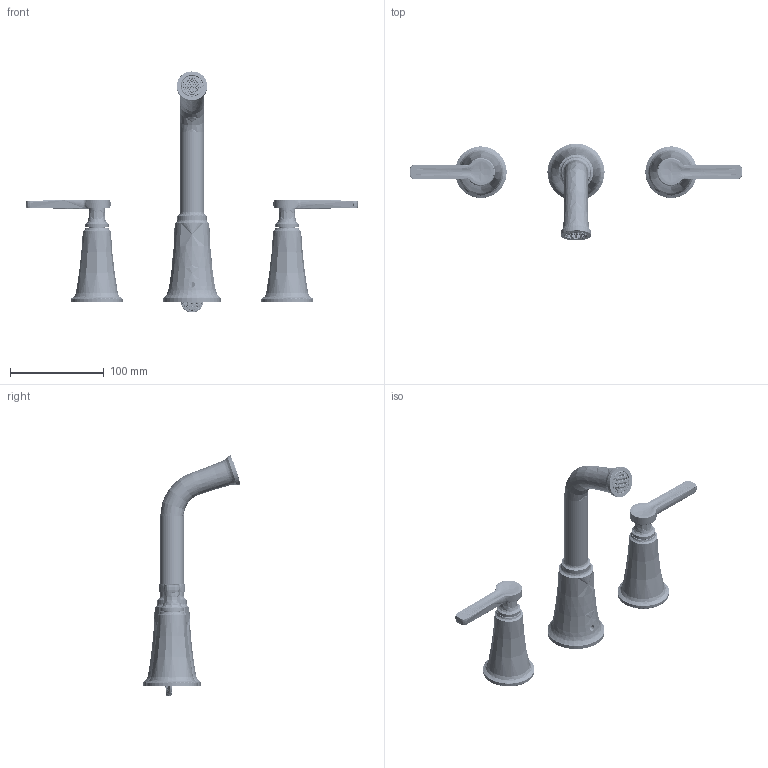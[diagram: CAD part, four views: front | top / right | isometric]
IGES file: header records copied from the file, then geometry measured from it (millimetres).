
Start section: SolidWorks IGES file using analytic representation for surfaces
Global section: file name: C:\Users\ccai\Desktop\CeliaC\Projects\ADHOC-02340+02341 NF LINEART\TMMSQ05J\SKU_TMMSQ05Jseries_IGS\TMMSQ05JSERIES.IGS; native system: SolidWorks 2023; preprocessor: SolidWorks 2023; author: ccai; date: 250819.120727; units: millimetre
Bounding box: 354.54 x 103.69 x 257.39 mm (x, y, z)
Volume: 238648 mm3; surface area: 157494.8 mm2
Topology: 32 solids, 35 shells, 11623 faces, 31910 edges, 20256 vertices
Faces by surface type: plane 8937, revolution 2382, bspline 304
